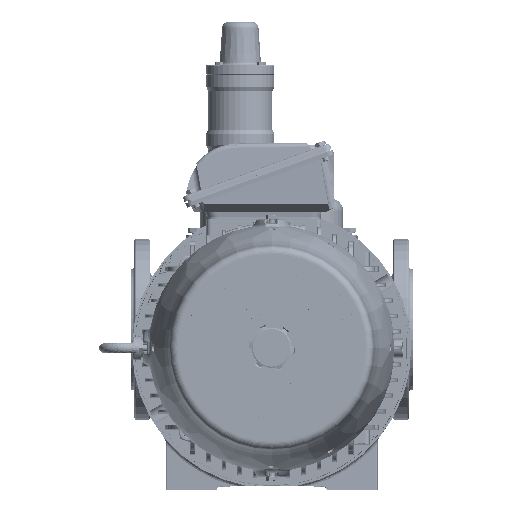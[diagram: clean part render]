
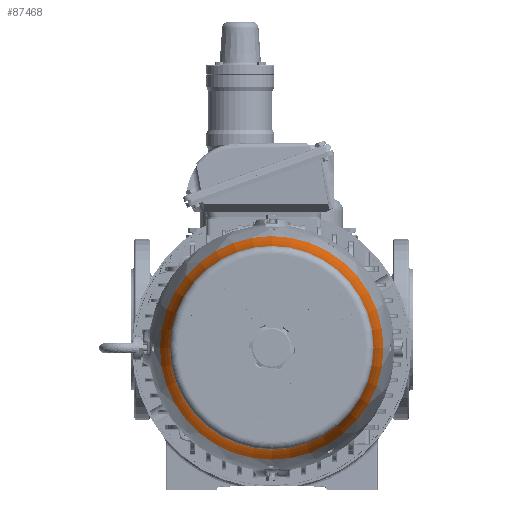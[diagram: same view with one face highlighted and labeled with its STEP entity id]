
A CAD part, top view. The second image highlights one B-rep face of the part: STEP entity #87468.
In plain terms, the highlighted toroidal (fillet/blend) face has major radius 308.616 mm and minor radius 180 mm.
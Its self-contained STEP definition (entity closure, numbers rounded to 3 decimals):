
#59=TOROIDAL_SURFACE('',#94174,308.617,180.);
#16915=FACE_OUTER_BOUND('',#22096,.T.);
#22096=EDGE_LOOP('',(#61812,#61813,#61814,#61815,#61816,#61817));
#27753=CIRCLE('',#94155,142.487);
#27754=CIRCLE('',#94156,142.487);
#27772=CIRCLE('',#94175,180.);
#27773=CIRCLE('',#94176,129.927);
#27774=CIRCLE('',#94177,129.927);
#36555=VERTEX_POINT('',#139293);
#36556=VERTEX_POINT('',#139297);
#36590=VERTEX_POINT('',#139587);
#36591=VERTEX_POINT('',#139589);
#46075=EDGE_CURVE('',#36555,#36556,#27753,.T.);
#46076=EDGE_CURVE('',#36556,#36555,#27754,.T.);
#46111=EDGE_CURVE('',#36555,#36590,#27772,.T.);
#46112=EDGE_CURVE('',#36590,#36591,#27773,.T.);
#46113=EDGE_CURVE('',#36591,#36590,#27774,.T.);
#61812=ORIENTED_EDGE('',*,*,#46076,.F.);
#61813=ORIENTED_EDGE('',*,*,#46075,.F.);
#61814=ORIENTED_EDGE('',*,*,#46111,.T.);
#61815=ORIENTED_EDGE('',*,*,#46112,.T.);
#61816=ORIENTED_EDGE('',*,*,#46113,.T.);
#61817=ORIENTED_EDGE('',*,*,#46111,.F.);
#87468=ADVANCED_FACE('',(#16915),#59,.F.);
#94155=AXIS2_PLACEMENT_3D('',#139298,#107180,#107181);
#94156=AXIS2_PLACEMENT_3D('',#139299,#107182,#107183);
#94174=AXIS2_PLACEMENT_3D('',#139586,#107218,#107219);
#94175=AXIS2_PLACEMENT_3D('',#139588,#107220,#107221);
#94176=AXIS2_PLACEMENT_3D('',#139590,#107222,#107223);
#94177=AXIS2_PLACEMENT_3D('',#139591,#107224,#107225);
#107180=DIRECTION('center_axis',(0.,0.,
-1.));
#107181=DIRECTION('ref_axis',(-1.,0.,0.));
#107182=DIRECTION('center_axis',(0.,0.,
-1.));
#107183=DIRECTION('ref_axis',(-1.,0.,0.));
#107218=DIRECTION('center_axis',(0.,0.,
-1.));
#107219=DIRECTION('ref_axis',(-1.,0.,0.));
#107220=DIRECTION('center_axis',(0.,1.,0.));
#107221=DIRECTION('ref_axis',(1.,0.,0.));
#107222=DIRECTION('center_axis',(0.,0.,
-1.));
#107223=DIRECTION('ref_axis',(-1.,0.,0.));
#107224=DIRECTION('center_axis',(0.,0.,
-1.));
#107225=DIRECTION('ref_axis',(-1.,0.,0.));
#139293=CARTESIAN_POINT('',(142.487,0.,597.799));
#139297=CARTESIAN_POINT('',(-142.487,0.,597.799));
#139298=CARTESIAN_POINT('Origin',(0.,0.,
597.799));
#139299=CARTESIAN_POINT('Origin',(0.,0.,
597.799));
#139586=CARTESIAN_POINT('Origin',(0.,0.,
667.087));
#139587=CARTESIAN_POINT('',(129.927,0.,645.405));
#139588=CARTESIAN_POINT('Origin',(308.617,0.,
667.087));
#139589=CARTESIAN_POINT('',(-129.927,0.,645.405));
#139590=CARTESIAN_POINT('Origin',(0.,0.,
645.405));
#139591=CARTESIAN_POINT('Origin',(0.,0.,
645.405));
